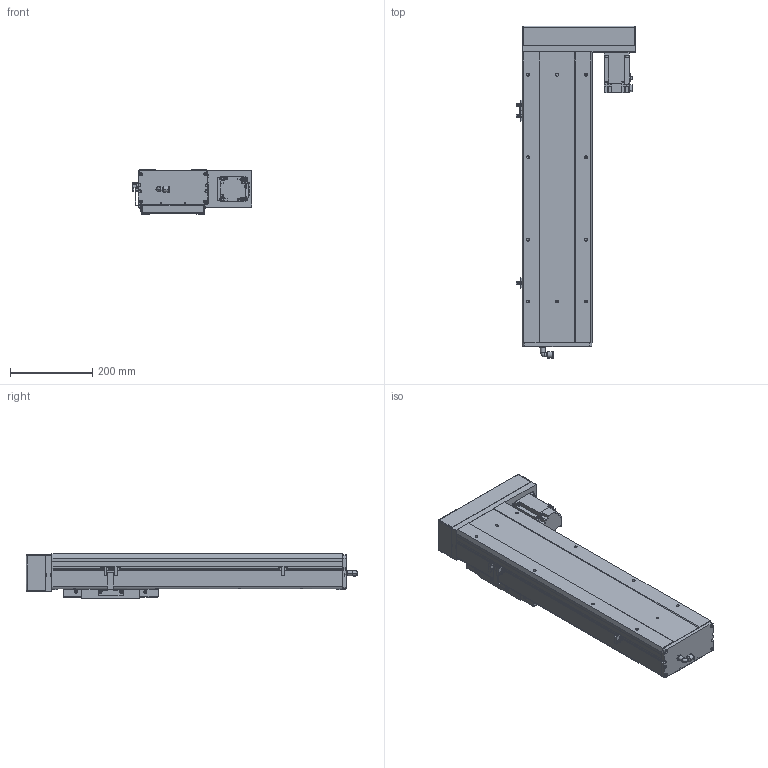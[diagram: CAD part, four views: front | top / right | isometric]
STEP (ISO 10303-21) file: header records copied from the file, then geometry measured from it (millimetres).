
FILE_DESCRIPTION (( 'STEP AP203' ), '1' );
FILE_NAME ('8.STEP', '2021-01-06T01:03:32', ( '' ), ( '' ), 'SwSTEP 2.0', 'SolidWorks 2016', '' );
FILE_SCHEMA (( 'CONFIG_CONTROL_DESIGN' ));
Length unit declared in the file: millimetre
Products named in the file (9): BCH17-BL-03; BCH17-BL-HZ; BCH17-BL-01; BCH17-BL-M40; BCH17-BL-02; BCH17-BL-BR-菁釱; 8; BCH17-BL-04; BCH17-BL-10
Assembly tree (11 placements, depth 2):
  8
    BCH17-BL-BR-菁釱
    BCH17-BL-01
    BCH17-BL-02
    BCH17-BL-03  x2
    BCH17-BL-04  x3
    BCH17-BL-10
    BCH17-BL-HZ
    BCH17-BL-M40
Bounding box: 289.2 x 804.93 x 107 mm (x, y, z)
Volume: 5923880.8 mm3; surface area: 1090616.7 mm2
Topology: 20 solids, 20 shells, 1487 faces, 3930 edges, 2493 vertices
Faces by surface type: plane 898, cylinder 457, cone 90, bspline 28, sphere 12, torus 2
Entity records: 40293 total; most frequent: CARTESIAN_POINT 9034, ORIENTED_EDGE 6372, DIRECTION 6116, EDGE_CURVE 3186, LINE 2094, VECTOR 2094, VERTEX_POINT 2041, AXIS2_PLACEMENT_3D 2011
